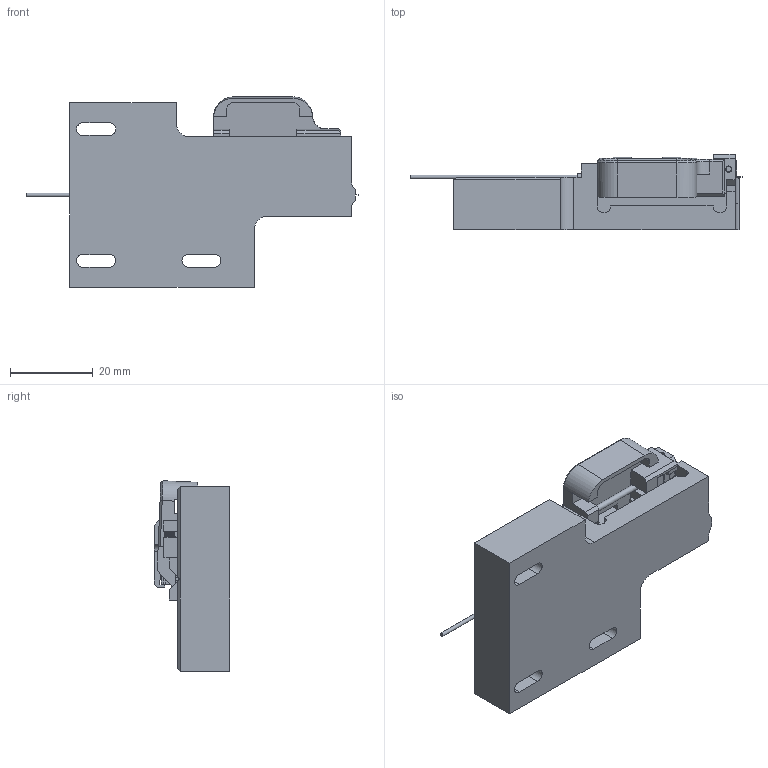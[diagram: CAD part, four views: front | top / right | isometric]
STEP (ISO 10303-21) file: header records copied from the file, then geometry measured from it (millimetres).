
FILE_DESCRIPTION((''),'1');
FILE_NAME('Luminos','2022-02-11T21:53:51',('JD'),('Luminos'),'Spatial Interop R20 SP1','Kubotek KeyCreator V9.0.3 (16864)',' ');
FILE_SCHEMA(('automotive_design'));
Length unit declared in the file: inch
Products named in the file (2): 1; Fiber Type 125-250-900 µm[4]
Bounding box: 80.01 x 18.23 x 45.87 mm (x, y, z)
Volume: 28278.1 mm3; surface area: 11956.9 mm2
Topology: 2 solids, 2 shells, 506 faces, 1412 edges, 926 vertices
Faces by surface type: plane 291, cylinder 106, cone 64, bspline 40, sphere 5
Full cylindrical faces by diameter (mm): 0.125 x1, 0.9 x1, 1.5 x3, 1.511 x2, 1.778 x1, 3.556 x4, 3.962 x4
Entity records: 29857 total; most frequent: CARTESIAN_POINT 4940, ORIENTED_EDGE 2706, PRESENTATION_STYLE_ASSIGNMENT 2368, COLOUR_RGB 2368, DIRECTION 2223, STYLED_ITEM 1861, CURVE_STYLE 1860, DRAUGHTING_PRE_DEFINED_CURVE_FONT 1860
